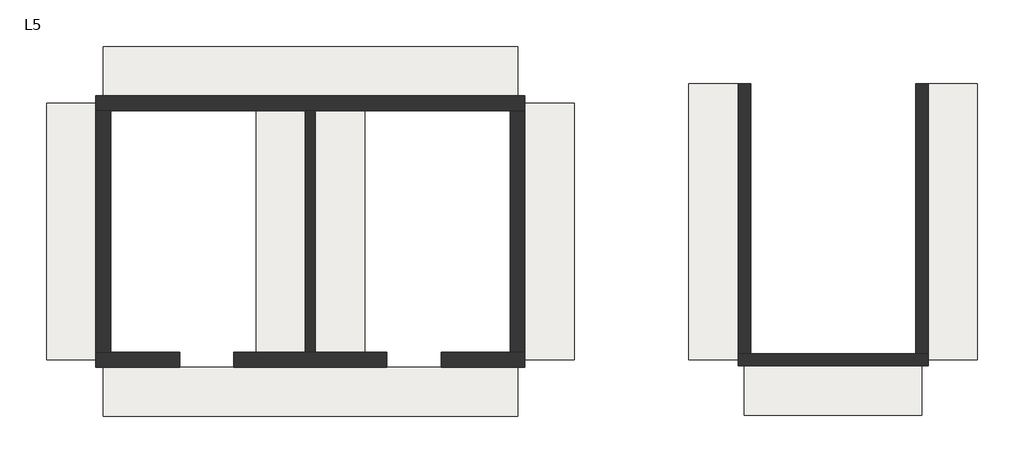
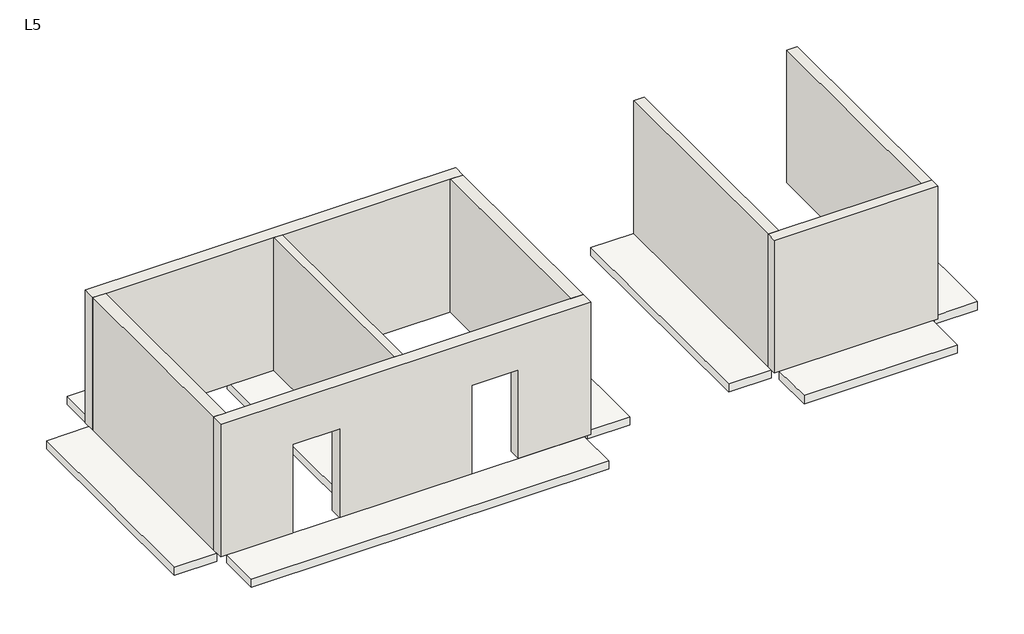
# One storey: 9 slabs, 8 walls.
"""IFC4 building model written with IfcOpenShell, lengths in millimetres."""

from ifc_helpers import new_model, si_unit, frame, origin, place, context, project, spatial, polyline, outline, extrude, faceted_brep, element, save

model = new_model("IFC4")

# Units and contexts
model_context = context("Model", 3, world=origin())
ifc_project = project(units=[si_unit("LENGTHUNIT", "METRE", prefix="MILLI")], contexts=[model_context])

# Site, building, storey
site = spatial("IfcSite", under=ifc_project)
building = spatial("IfcBuilding", under=site)
storey = spatial("IfcBuildingStorey", under=building, Name="L5", Elevation=14400.0)

# Slabs
placement = place(None, origin())
element("IfcSlab", 1, ObjectType="BS-Sàn 200", at=placement, inside=storey, context=model_context, shape_type="SweptSolid", body=[
    extrude(outline(polyline([(0.0, 6350.0), (8400.0, 6350.0), (8400.0, 5350.0), (0.0, 5350.0), (0.0, 6350.0)])), frame((0.0, 0.0, 14200.0), z_axis=(0.0, 0.0, 1.0), x_axis=(1.0, 0.0, 0.0)), (0.0, 0.0, 1.0), 200.0),
])
element("IfcSlab", 2, ObjectType="BS-Sàn 200", at=placement, inside=storey, context=model_context, shape_type="SweptSolid", body=[
    extrude(outline(polyline([(16725.0, 5600.0), (17725.0, 5600.0), (17725.0, 0.0), (16725.0, 0.0), (16725.0, 5600.0)])), frame((0.0, 0.0, 14200.0), z_axis=(0.0, 0.0, 1.0), x_axis=(1.0, 0.0, 0.0)), (0.0, 0.0, 1.0), 200.0),
])
element("IfcSlab", 3, ObjectType="BS-Sàn 200", at=placement, inside=storey, context=model_context, shape_type="SweptSolid", body=[
    extrude(outline(polyline([(11875.0, 5600.0), (12875.0, 5600.0), (12875.0, 0.0), (11875.0, 0.0), (11875.0, 5600.0)])), frame((0.0, 0.0, 14200.0), z_axis=(0.0, 0.0, 1.0), x_axis=(1.0, 0.0, 0.0)), (0.0, 0.0, 1.0), 200.0),
])
element("IfcSlab", 4, ObjectType="BS-Sàn 200", at=placement, inside=storey, context=model_context, shape_type="SweptSolid", body=[
    extrude(outline(polyline([(4300.0, 5200.0), (5300.0, 5200.0), (5300.0, 0.0), (4300.0, 0.0), (4300.0, 5200.0)])), frame((0.0, 0.0, 14200.0), z_axis=(0.0, 0.0, 1.0), x_axis=(1.0, 0.0, 0.0)), (0.0, 0.0, 1.0), 200.0),
])
element("IfcSlab", 5, ObjectType="BS-Sàn 200", at=placement, inside=storey, context=model_context, shape_type="SweptSolid", body=[
    extrude(outline(polyline([(3100.0, 5200.0), (4100.0, 5200.0), (4100.0, 0.0), (3100.0, 0.0), (3100.0, 5200.0)])), frame((0.0, 0.0, 14200.0), z_axis=(0.0, 0.0, 1.0), x_axis=(1.0, 0.0, 0.0)), (0.0, 0.0, 1.0), 200.0),
])
element("IfcSlab", 6, ObjectType="BS-Sàn 200", at=placement, inside=storey, context=model_context, shape_type="SweptSolid", body=[
    extrude(outline(polyline([(8550.0, 5200.0), (9550.0, 5200.0), (9550.0, 0.0), (8550.0, 0.0), (8550.0, 5200.0)])), frame((0.0, 0.0, 14200.0), z_axis=(0.0, 0.0, 1.0), x_axis=(1.0, 0.0, 0.0)), (0.0, 0.0, 1.0), 200.0),
])
element("IfcSlab", 7, ObjectType="BS-Sàn 200", at=placement, inside=storey, context=model_context, shape_type="SweptSolid", body=[
    extrude(outline(polyline([(-1150.0, 5200.0), (-150.0, 5200.0), (-150.0, 0.0), (-1150.0, 0.0), (-1150.0, 5200.0)])), frame((0.0, 0.0, 14200.0), z_axis=(0.0, 0.0, 1.0), x_axis=(1.0, 0.0, 0.0)), (0.0, 0.0, 1.0), 200.0),
])
element("IfcSlab", 8, ObjectType="BS-Sàn 200", at=placement, inside=storey, context=model_context, shape_type="SweptSolid", body=[
    extrude(outline(polyline([(13000.0, -125.0), (16600.0, -125.0), (16600.0, -1125.0), (13000.0, -1125.0), (13000.0, -125.0)])), frame((0.0, 0.0, 14200.0), z_axis=(0.0, 0.0, 1.0), x_axis=(1.0, 0.0, 0.0)), (0.0, 0.0, 1.0), 200.0),
])
element("IfcSlab", 9, ObjectType="BS-Sàn 200", at=placement, inside=storey, context=model_context, shape_type="SweptSolid", body=[
    extrude(outline(polyline([(0.0, -150.0), (8400.0, -150.0), (8400.0, -1150.0), (0.0, -1150.0), (0.0, -150.0)])), frame((0.0, 0.0, 14200.0), z_axis=(0.0, 0.0, 1.0), x_axis=(1.0, 0.0, 0.0)), (0.0, 0.0, 1.0), 200.0),
])

# Walls
element("IfcWall", 10, ObjectType="BS-Vách 300", at=placement, inside=storey, context=model_context, shape_type="Brep", body=[
    faceted_brep([(-150.0, 5050.0, 14400.0), (150.0, 5050.0, 14400.0), (4100.0, 5050.0, 14400.0), (4300.0, 5050.0, 14400.0), (8250.0, 5050.0, 14400.0), (8550.0, 5050.0, 14400.0), (8550.0, 5050.0, 17700.0), (8250.0, 5050.0, 17700.0), (4300.0, 5050.0, 17700.0), (4100.0, 5050.0, 17700.0), (150.0, 5050.0, 17700.0), (-150.0, 5050.0, 17700.0), (-150.0, 5350.0, 14400.0), (-150.0, 5350.0, 17700.0), (8550.0, 5350.0, 17700.0), (8550.0, 5350.0, 14400.0)], [[[0, 1, 2, 3, 4, 5, 6, 7, 8, 9, 10, 11]], [[12, 13, 14, 15]], [[5, 4, 3, 2, 1, 0, 12, 15]], [[11, 10, 9, 8, 7, 6, 14, 13]], [[6, 5, 15, 14]], [[0, 11, 13, 12]]]),
])
element("IfcWall", 11, ObjectType="BS-Vách 300", at=placement, inside=storey, context=model_context, shape_type="Brep", body=[
    faceted_brep([(8550.0, -150.0, 14400.0), (8550.0, -150.0, 17700.0), (-150.0, -150.0, 17700.0), (-150.0, -150.0, 14400.0), (1550.0, -150.0, 14400.0), (1550.0, -150.0, 16600.0), (2650.0, -150.0, 16600.0), (2650.0, -150.0, 14400.0), (5750.0, -150.0, 14400.0), (5750.0, -150.0, 16600.0), (6850.0, -150.0, 16600.0), (6850.0, -150.0, 14400.0), (8550.0, 150.0, 17700.0), (8550.0, 150.0, 14400.0), (8250.0, 150.0, 14400.0), (6850.0, 150.0, 14400.0), (6850.0, 150.0, 16600.0), (5750.0, 150.0, 16600.0), (5750.0, 150.0, 14400.0), (4300.0, 150.0, 14400.0), (4100.0, 150.0, 14400.0), (2650.0, 150.0, 14400.0), (2650.0, 150.0, 16600.0), (1550.0, 150.0, 16600.0), (1550.0, 150.0, 14400.0), (150.0, 150.0, 14400.0), (-150.0, 150.0, 14400.0), (-150.0, 150.0, 17700.0), (150.0, 150.0, 17700.0), (4100.0, 150.0, 17700.0), (4300.0, 150.0, 17700.0), (8250.0, 150.0, 17700.0)], [[[0, 1, 2, 3, 4, 5, 6, 7, 8, 9, 10, 11]], [[12, 13, 14, 15, 16, 17, 18, 19, 20, 21, 22, 23, 24, 25, 26, 27, 28, 29, 30, 31]], [[7, 21, 20, 19, 18, 8]], [[13, 0, 11, 15, 14]], [[3, 26, 25, 24, 4]], [[2, 1, 12, 31, 30, 29, 28, 27]], [[5, 23, 22, 6]], [[23, 5, 4, 24]], [[6, 22, 21, 7]], [[9, 17, 16, 10]], [[17, 9, 8, 18]], [[10, 16, 15, 11]], [[1, 0, 13, 12]], [[3, 2, 27, 26]]]),
])
element("IfcWall", 12, ObjectType="BS-Vách 300", at=placement, inside=storey, context=model_context, shape_type="SweptSolid", body=[
    extrude(outline(polyline([(150.0, 5050.0), (150.0, 150.0), (-150.0, 150.0), (-150.0, 5050.0), (150.0, 5050.0)])), frame((0.0, 0.0, 14400.0), z_axis=(0.0, 0.0, 1.0), x_axis=(1.0, 0.0, 0.0)), (0.0, 0.0, 1.0), 3300.0),
])
element("IfcWall", 13, ObjectType="BS-Vách 300", at=placement, inside=storey, context=model_context, shape_type="SweptSolid", body=[
    extrude(outline(polyline([(8550.0, 5050.0), (8550.0, 150.0), (8250.0, 150.0), (8250.0, 5050.0), (8550.0, 5050.0)])), frame((0.0, 0.0, 14400.0), z_axis=(0.0, 0.0, 1.0), x_axis=(1.0, 0.0, 0.0)), (0.0, 0.0, 1.0), 3300.0),
])
element("IfcWall", 14, ObjectType="BS-Vách 200", at=placement, inside=storey, context=model_context, shape_type="SweptSolid", body=[
    extrude(outline(polyline([(4300.0, 5050.0), (4300.0, 150.0), (4100.0, 150.0), (4100.0, 5050.0), (4300.0, 5050.0)])), frame((0.0, 0.0, 14400.0), z_axis=(0.0, 0.0, 1.0), x_axis=(1.0, 0.0, 0.0)), (0.0, 0.0, 1.0), 3300.0),
])
element("IfcWall", 15, ObjectType="BS-Vách 250", at=placement, inside=storey, context=model_context, shape_type="Brep", body=[
    faceted_brep([(12875.0, -125.0, 14400.0), (16725.0, -125.0, 14400.0), (16725.0, -125.0, 17700.0), (12875.0, -125.0, 17700.0), (12875.0, 125.0, 14400.0), (12875.0, 125.0, 17700.0), (13125.0, 125.0, 17700.0), (16475.0, 125.0, 17700.0), (16725.0, 125.0, 17700.0), (16725.0, 125.0, 14400.0), (16475.0, 125.0, 14400.0), (13125.0, 125.0, 14400.0)], [[[0, 1, 2, 3]], [[4, 5, 6, 7, 8, 9, 10, 11]], [[1, 0, 4, 11, 10, 9]], [[3, 2, 8, 7, 6, 5]], [[2, 1, 9, 8]], [[0, 3, 5, 4]]]),
])
element("IfcWall", 16, ObjectType="BS-Vách 250", at=placement, inside=storey, context=model_context, shape_type="SweptSolid", body=[
    extrude(outline(polyline([(13125.0, 5600.0), (13125.0, 125.0), (12875.0, 125.0), (12875.0, 5600.0), (13125.0, 5600.0)])), frame((0.0, 0.0, 14400.0), z_axis=(0.0, 0.0, 1.0), x_axis=(1.0, 0.0, 0.0)), (0.0, 0.0, 1.0), 3300.0),
])
element("IfcWall", 17, ObjectType="BS-Vách 250", at=placement, inside=storey, context=model_context, shape_type="SweptSolid", body=[
    extrude(outline(polyline([(16725.0, 5600.0), (16725.0, 125.0), (16475.0, 125.0), (16475.0, 5600.0), (16725.0, 5600.0)])), frame((0.0, 0.0, 14400.0), z_axis=(0.0, 0.0, 1.0), x_axis=(1.0, 0.0, 0.0)), (0.0, 0.0, 1.0), 3300.0),
])

save(model, "model.ifc")
